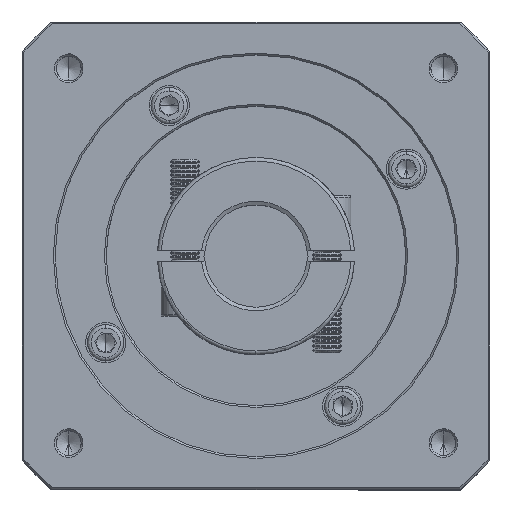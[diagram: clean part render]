
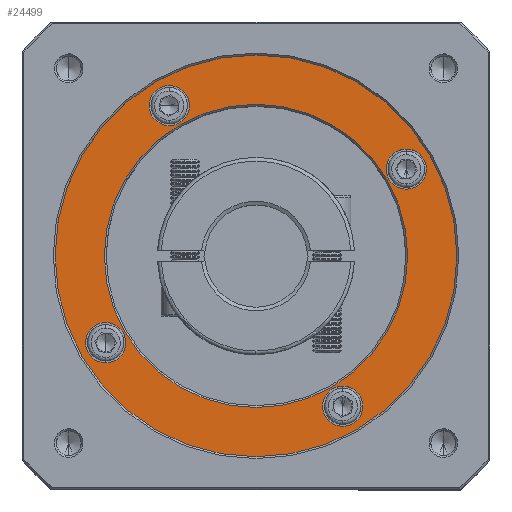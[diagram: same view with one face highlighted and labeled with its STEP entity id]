
A CAD part, top view. The second image highlights one B-rep face of the part: STEP entity #24499.
In plain terms, the highlighted planar face has unit normal (0, 0, 1).
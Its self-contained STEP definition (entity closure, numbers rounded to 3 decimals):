
#1635 = CIRCLE ( 'NONE', #49082, 5.5 ) ;
#2705 = DIRECTION ( 'NONE',  ( 0., 0., -1. ) ) ;
#6123 = EDGE_CURVE ( 'NONE', #8767, #104206, #56359, .T. ) ;
#8767 = VERTEX_POINT ( 'NONE', #90009 ) ;
#10674 = CARTESIAN_POINT ( 'NONE',  ( 68.139, 6.728, -11.393 ) ) ;
#13609 = EDGE_CURVE ( 'NONE', #47504, #38850, #55606, .T. ) ;
#14786 = EDGE_CURVE ( 'NONE', #38850, #47504, #1635, .T. ) ;
#14809 = DIRECTION ( 'NONE',  ( 0., -1., 0. ) ) ;
#14879 = PLANE ( 'NONE',  #70478 ) ;
#15093 = DIRECTION ( 'NONE',  ( 0., -1., 0. ) ) ;
#15753 = AXIS2_PLACEMENT_3D ( 'NONE', #16177, #59216, #48005 ) ;
#15837 = CARTESIAN_POINT ( 'NONE',  ( 85.526, 71.614, -11.393 ) ) ;
#16177 = CARTESIAN_POINT ( 'NONE',  ( 20.639, 89., -11.393 ) ) ;
#20124 = AXIS2_PLACEMENT_3D ( 'NONE', #55994, #77047, #120545 ) ;
#20358 = DIRECTION ( 'NONE',  ( 0., 0., -1. ) ) ;
#20408 = CIRCLE ( 'NONE', #91554, 5.5 ) ;
#20981 = VERTEX_POINT ( 'NONE', #102181 ) ;
#24166 = ORIENTED_EDGE ( 'NONE', *, *, #6123, .T. ) ;
#24497 = VERTEX_POINT ( 'NONE', #26132 ) ;
#24499 = ADVANCED_FACE ( 'NONE', ( #134493, #49269, #40947, #44354, #66032, #35888 ), #14879, .T. ) ;
#26132 = CARTESIAN_POINT ( 'NONE',  ( 44.389, 102.864, -11.393 ) ) ;
#26421 = EDGE_LOOP ( 'NONE', ( #74342, #128577 ) ) ;
#27983 = CIRCLE ( 'NONE', #136001, 5.5 ) ;
#29328 = VERTEX_POINT ( 'NONE', #100663 ) ;
#29430 = AXIS2_PLACEMENT_3D ( 'NONE', #10674, #85927, #96229 ) ;
#31138 = DIRECTION ( 'NONE',  ( 0., -1., 0. ) ) ;
#34471 = EDGE_CURVE ( 'NONE', #113304, #29328, #20408, .T. ) ;
#35888 = FACE_BOUND ( 'NONE', #26421, .T. ) ;
#35995 = CARTESIAN_POINT ( 'NONE',  ( 44.389, 47.864, -11.393 ) ) ;
#38850 = VERTEX_POINT ( 'NONE', #91824 ) ;
#39278 = CIRCLE ( 'NONE', #29430, 5.5 ) ;
#39290 = VERTEX_POINT ( 'NONE', #81386 ) ;
#40947 = FACE_BOUND ( 'NONE', #51964, .T. ) ;
#41149 = CIRCLE ( 'NONE', #20124, 55. ) ;
#43107 = CIRCLE ( 'NONE', #110349, 55. ) ;
#44354 = FACE_BOUND ( 'NONE', #83406, .T. ) ;
#45293 = CARTESIAN_POINT ( 'NONE',  ( 44.389, 47.864, -11.393 ) ) ;
#45762 = EDGE_LOOP ( 'NONE', ( #96681, #63750 ) ) ;
#47217 = DIRECTION ( 'NONE',  ( 0., -1., 0. ) ) ;
#47504 = VERTEX_POINT ( 'NONE', #116051 ) ;
#47781 = DIRECTION ( 'NONE',  ( 0., 0., -1. ) ) ;
#48005 = DIRECTION ( 'NONE',  ( 0., -1., 0. ) ) ;
#48723 = EDGE_CURVE ( 'NONE', #116405, #39290, #75587, .T. ) ;
#49082 = AXIS2_PLACEMENT_3D ( 'NONE', #97031, #20358, #31138 ) ;
#49269 = FACE_BOUND ( 'NONE', #75948, .T. ) ;
#51964 = EDGE_LOOP ( 'NONE', ( #67317, #70483 ) ) ;
#52478 = DIRECTION ( 'NONE',  ( 0., -1., 0. ) ) ;
#52916 = CIRCLE ( 'NONE', #63954, 41.5 ) ;
#54409 = DIRECTION ( 'NONE',  ( 0., 0., -1. ) ) ;
#55130 = VERTEX_POINT ( 'NONE', #109251 ) ;
#55606 = CIRCLE ( 'NONE', #78589, 5.5 ) ;
#55994 = CARTESIAN_POINT ( 'NONE',  ( 44.389, 47.864, -11.393 ) ) ;
#56359 = CIRCLE ( 'NONE', #130125, 5.5 ) ;
#56692 = DIRECTION ( 'NONE',  ( 0., -1., 0. ) ) ;
#56907 = DIRECTION ( 'NONE',  ( 0., 0., 1. ) ) ;
#57980 = DIRECTION ( 'NONE',  ( 0., 0., 1. ) ) ;
#59216 = DIRECTION ( 'NONE',  ( 0., 0., -1. ) ) ;
#59926 = AXIS2_PLACEMENT_3D ( 'NONE', #45293, #2705, #14809 ) ;
#60897 = ORIENTED_EDGE ( 'NONE', *, *, #61190, .T. ) ;
#61190 = EDGE_CURVE ( 'NONE', #104206, #8767, #27983, .T. ) ;
#63750 = ORIENTED_EDGE ( 'NONE', *, *, #14786, .T. ) ;
#63954 = AXIS2_PLACEMENT_3D ( 'NONE', #102071, #111558, #15093 ) ;
#64821 = CIRCLE ( 'NONE', #15753, 5.5 ) ;
#65117 = EDGE_CURVE ( 'NONE', #39290, #116405, #52916, .T. ) ;
#66032 = FACE_BOUND ( 'NONE', #45762, .T. ) ;
#67317 = ORIENTED_EDGE ( 'NONE', *, *, #79249, .T. ) ;
#68296 = CARTESIAN_POINT ( 'NONE',  ( 44.389, 89.364, -11.393 ) ) ;
#70478 = AXIS2_PLACEMENT_3D ( 'NONE', #121532, #57980, #111816 ) ;
#70483 = ORIENTED_EDGE ( 'NONE', *, *, #137362, .T. ) ;
#71895 = DIRECTION ( 'NONE',  ( 0., 0., -1. ) ) ;
#72298 = ORIENTED_EDGE ( 'NONE', *, *, #117810, .T. ) ;
#73235 = ORIENTED_EDGE ( 'NONE', *, *, #65117, .T. ) ;
#74342 = ORIENTED_EDGE ( 'NONE', *, *, #34471, .T. ) ;
#75587 = CIRCLE ( 'NONE', #59926, 41.5 ) ;
#75948 = EDGE_LOOP ( 'NONE', ( #73235, #77673 ) ) ;
#77047 = DIRECTION ( 'NONE',  ( 0., 0., 1. ) ) ;
#77673 = ORIENTED_EDGE ( 'NONE', *, *, #48723, .T. ) ;
#78589 = AXIS2_PLACEMENT_3D ( 'NONE', #114074, #71895, #91591 ) ;
#79249 = EDGE_CURVE ( 'NONE', #55130, #20981, #87343, .T. ) ;
#81386 = CARTESIAN_POINT ( 'NONE',  ( 44.389, 6.364, -11.393 ) ) ;
#83406 = EDGE_LOOP ( 'NONE', ( #24166, #60897 ) ) ;
#85927 = DIRECTION ( 'NONE',  ( 0., 0., -1. ) ) ;
#87343 = CIRCLE ( 'NONE', #100013, 5.5 ) ;
#89369 = CARTESIAN_POINT ( 'NONE',  ( 20.639, 89., -11.393 ) ) ;
#90009 = CARTESIAN_POINT ( 'NONE',  ( 85.526, 66.114, -11.393 ) ) ;
#91554 = AXIS2_PLACEMENT_3D ( 'NONE', #89369, #47781, #56692 ) ;
#91591 = DIRECTION ( 'NONE',  ( 0., -1., 0. ) ) ;
#91824 = CARTESIAN_POINT ( 'NONE',  ( 3.253, 29.614, -11.393 ) ) ;
#92799 = ORIENTED_EDGE ( 'NONE', *, *, #103795, .T. ) ;
#94095 = CARTESIAN_POINT ( 'NONE',  ( 85.526, 71.614, -11.393 ) ) ;
#95286 = CARTESIAN_POINT ( 'NONE',  ( 20.639, 83.5, -11.393 ) ) ;
#96229 = DIRECTION ( 'NONE',  ( 0., -1., 0. ) ) ;
#96681 = ORIENTED_EDGE ( 'NONE', *, *, #13609, .T. ) ;
#97031 = CARTESIAN_POINT ( 'NONE',  ( 3.253, 24.114, -11.393 ) ) ;
#97097 = VERTEX_POINT ( 'NONE', #107786 ) ;
#97646 = EDGE_CURVE ( 'NONE', #29328, #113304, #64821, .T. ) ;
#99586 = DIRECTION ( 'NONE',  ( 0., 0., -1. ) ) ;
#100013 = AXIS2_PLACEMENT_3D ( 'NONE', #118490, #107242, #52478 ) ;
#100663 = CARTESIAN_POINT ( 'NONE',  ( 20.639, 94.5, -11.393 ) ) ;
#102071 = CARTESIAN_POINT ( 'NONE',  ( 44.389, 47.864, -11.393 ) ) ;
#102181 = CARTESIAN_POINT ( 'NONE',  ( 68.139, 12.228, -11.393 ) ) ;
#103795 = EDGE_CURVE ( 'NONE', #97097, #24497, #43107, .T. ) ;
#104206 = VERTEX_POINT ( 'NONE', #107958 ) ;
#107242 = DIRECTION ( 'NONE',  ( 0., 0., -1. ) ) ;
#107786 = CARTESIAN_POINT ( 'NONE',  ( 44.389, -7.136, -11.393 ) ) ;
#107958 = CARTESIAN_POINT ( 'NONE',  ( 85.526, 77.114, -11.393 ) ) ;
#109251 = CARTESIAN_POINT ( 'NONE',  ( 68.139, 1.228, -11.393 ) ) ;
#110349 = AXIS2_PLACEMENT_3D ( 'NONE', #35995, #56907, #47217 ) ;
#110892 = DIRECTION ( 'NONE',  ( 0., -1., 0. ) ) ;
#111558 = DIRECTION ( 'NONE',  ( 0., 0., -1. ) ) ;
#111816 = DIRECTION ( 'NONE',  ( 0., -1., 0. ) ) ;
#113304 = VERTEX_POINT ( 'NONE', #95286 ) ;
#114074 = CARTESIAN_POINT ( 'NONE',  ( 3.253, 24.114, -11.393 ) ) ;
#116051 = CARTESIAN_POINT ( 'NONE',  ( 3.253, 18.614, -11.393 ) ) ;
#116405 = VERTEX_POINT ( 'NONE', #68296 ) ;
#117660 = EDGE_LOOP ( 'NONE', ( #92799, #72298 ) ) ;
#117810 = EDGE_CURVE ( 'NONE', #24497, #97097, #41149, .T. ) ;
#118075 = DIRECTION ( 'NONE',  ( 0., -1., 0. ) ) ;
#118490 = CARTESIAN_POINT ( 'NONE',  ( 68.139, 6.728, -11.393 ) ) ;
#120545 = DIRECTION ( 'NONE',  ( 0., -1., 0. ) ) ;
#121532 = CARTESIAN_POINT ( 'NONE',  ( 44.389, 47.864, -11.393 ) ) ;
#128577 = ORIENTED_EDGE ( 'NONE', *, *, #97646, .T. ) ;
#130125 = AXIS2_PLACEMENT_3D ( 'NONE', #15837, #99586, #110892 ) ;
#134493 = FACE_OUTER_BOUND ( 'NONE', #117660, .T. ) ;
#136001 = AXIS2_PLACEMENT_3D ( 'NONE', #94095, #54409, #118075 ) ;
#137362 = EDGE_CURVE ( 'NONE', #20981, #55130, #39278, .T. ) ;
